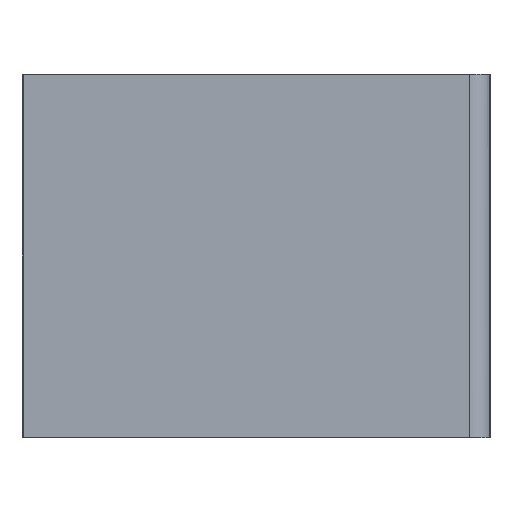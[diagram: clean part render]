
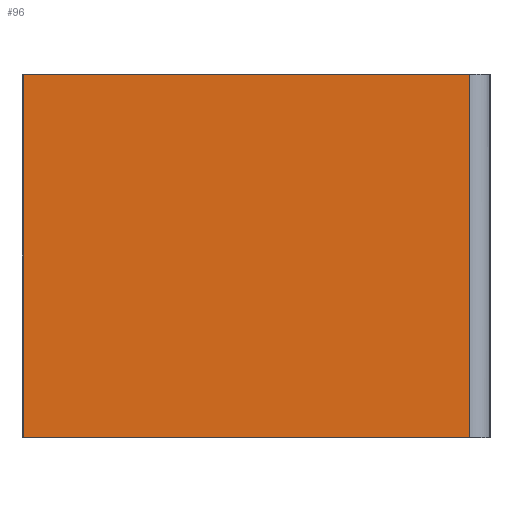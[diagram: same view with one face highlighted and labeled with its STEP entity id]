
A CAD part, left-side view. The second image highlights one B-rep face of the part: STEP entity #96.
In plain terms, the highlighted planar face has unit normal (-1, 0, 0).
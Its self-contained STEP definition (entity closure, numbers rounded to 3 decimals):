
#96=ADVANCED_FACE('',(#167),#1053,.T.);
#167=FACE_OUTER_BOUND('',#241,.T.);
#241=EDGE_LOOP('',(#559,#560,#561,#562));
#559=ORIENTED_EDGE('',*,*,#737,.F.);
#560=ORIENTED_EDGE('',*,*,#729,.F.);
#561=ORIENTED_EDGE('',*,*,#738,.T.);
#562=ORIENTED_EDGE('',*,*,#733,.F.);
#729=EDGE_CURVE('',#1005,#1007,#900,.T.);
#733=EDGE_CURVE('',#1011,#1012,#903,.T.);
#737=EDGE_CURVE('',#1007,#1011,#907,.T.);
#738=EDGE_CURVE('',#1005,#1012,#908,.T.);
#900=B_SPLINE_CURVE_WITH_KNOTS('',1,(#2553,#2554),.UNSPECIFIED.,.F.,.F.,
(2,2),(0.,70.),.UNSPECIFIED.);
#903=B_SPLINE_CURVE_WITH_KNOTS('',1,(#2562,#2563),.UNSPECIFIED.,.F.,.F.,
(2,2),(0.,70.),.UNSPECIFIED.);
#907=B_SPLINE_CURVE_WITH_KNOTS('',1,(#2570,#2571),.UNSPECIFIED.,.F.,.F.,
(2,2),(0.,86.),.UNSPECIFIED.);
#908=B_SPLINE_CURVE_WITH_KNOTS('',1,(#2572,#2573),.UNSPECIFIED.,.F.,.F.,
(2,2),(0.,86.),.UNSPECIFIED.);
#1005=VERTEX_POINT('',#2408);
#1007=VERTEX_POINT('',#2410);
#1011=VERTEX_POINT('',#2414);
#1012=VERTEX_POINT('',#2415);
#1053=PLANE('',#1142);
#1142=AXIS2_PLACEMENT_3D('',#2359,#1187,$);
#1187=DIRECTION('',(-1.,0.,0.));
#2359=CARTESIAN_POINT('',(-288.25,779.636,77.647));
#2408=CARTESIAN_POINT('',(-288.25,788.236,70.647));
#2410=CARTESIAN_POINT('',(-288.25,788.236,0.647));
#2414=CARTESIAN_POINT('',(-288.25,874.236,0.647));
#2415=CARTESIAN_POINT('',(-288.25,874.236,70.647));
#2553=CARTESIAN_POINT('',(-288.25,788.236,70.647));
#2554=CARTESIAN_POINT('',(-288.25,788.236,0.647));
#2562=CARTESIAN_POINT('',(-288.25,874.236,0.647));
#2563=CARTESIAN_POINT('',(-288.25,874.236,70.647));
#2570=CARTESIAN_POINT('',(-288.25,788.236,0.647));
#2571=CARTESIAN_POINT('',(-288.25,874.236,0.647));
#2572=CARTESIAN_POINT('',(-288.25,788.236,70.647));
#2573=CARTESIAN_POINT('',(-288.25,874.236,70.647));
